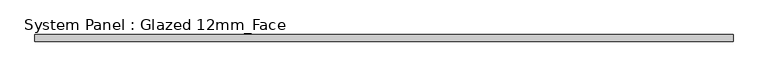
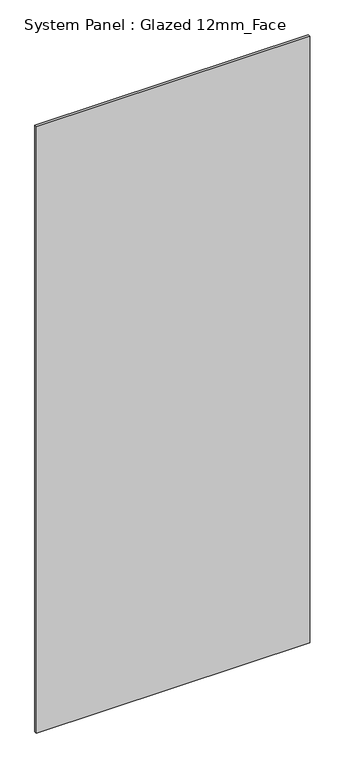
"""IFC4 building model written with IfcOpenShell, lengths in millimetres: plate geometry, System Panel : Glazed 12mm_Face."""

from ifc_helpers import new_model, si_unit, origin, origin_with_axes, place, context, project, spatial, polyline, outline, extrude, source, transform, mapped, element, save


def system_panel_glazed_12mm_face_f78356ff(model_context):
    return source(origin(), model_context, "Body", "SweptSolid", [
        extrude(outline(polyline([(596.9580839, 0.0), (-596.9580839, 0.0), (-596.9580839, 12.0), (596.9580839, 12.0), (596.9580839, 0.0)])), origin_with_axes(), (0.0, 0.0, 1.0), 2800.0),
    ])


if __name__ == "__main__":
    model = new_model("IFC4")
    model_context = context("Model", 3, world=origin())
    ifc_project = project(units=[si_unit("LENGTHUNIT", "METRE", prefix="MILLI")], contexts=[model_context])
    site = spatial("IfcSite", under=ifc_project)
    building = spatial("IfcBuilding", under=site)
    placement = place(None, origin())
    system_panel_glazed_12mm_face_shape = system_panel_glazed_12mm_face_f78356ff(model_context)
    element("IfcPlate", 1, ObjectType="System Panel : Glazed 12mm_Face", at=placement, inside=building, context=model_context, shape_type="MappedRepresentation", body=[
        mapped(system_panel_glazed_12mm_face_shape, transform((0.0, 0.0, 0.0), x_axis=(1.0, 0.0, 0.0), y_axis=(0.0, 1.0, 0.0), z_axis=(0.0, 0.0, 1.0))),
    ])
    save(model, "model.ifc")
